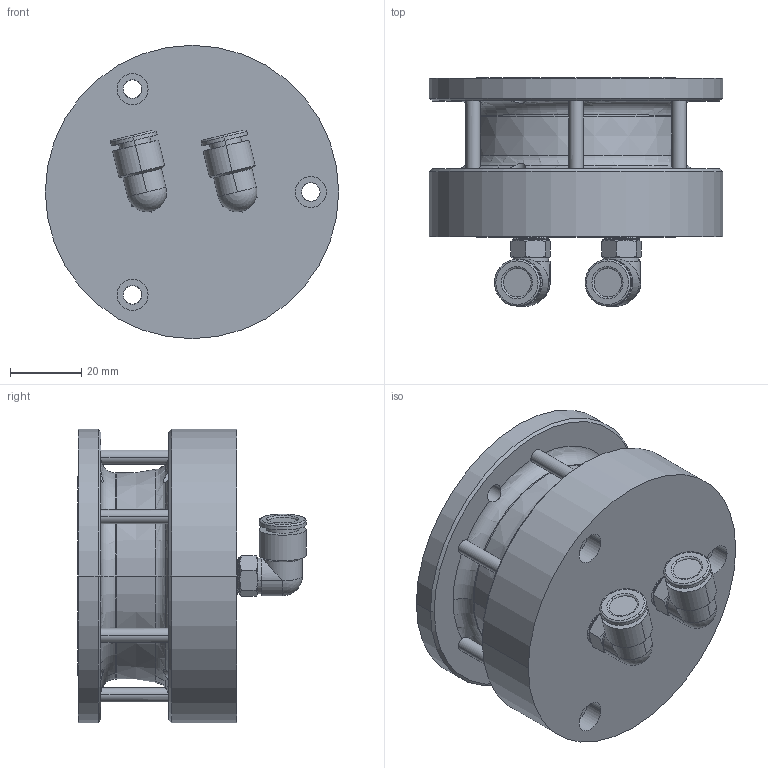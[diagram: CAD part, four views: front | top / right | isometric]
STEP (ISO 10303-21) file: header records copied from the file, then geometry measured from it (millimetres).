
FILE_DESCRIPTION (( 'STEP AP214' ), '1' );
FILE_NAME ('BD-50-B-W.STEP', '2019-05-24T18:42:33', ( '' ), ( '' ), 'SwSTEP 2.0', 'SolidWorks 2018', '' );
FILE_SCHEMA (( 'AUTOMOTIVE_DESIGN' ));
Length unit declared in the file: inch
Products named in the file (1): BD-50-B-W
Bounding box: 82.3 x 64.06 x 82.3 mm (x, y, z)
Volume: 155137.5 mm3; surface area: 42707.6 mm2
Topology: 1 solids, 1 shells, 305 faces, 777 edges, 491 vertices
Faces by surface type: cylinder 118, plane 88, cone 56, torus 31, bspline 10, sphere 2
Entity records: 15750 total; most frequent: CARTESIAN_POINT 8306, DIRECTION 1590, ORIENTED_EDGE 1546, EDGE_CURVE 773, AXIS2_PLACEMENT_3D 663, VERTEX_POINT 491, CIRCLE 367, EDGE_LOOP 350
